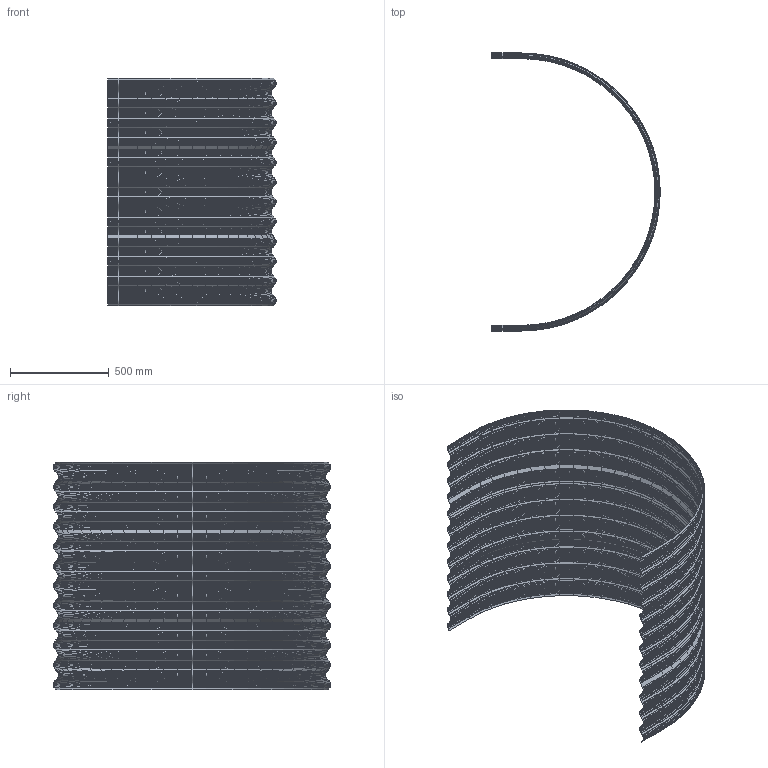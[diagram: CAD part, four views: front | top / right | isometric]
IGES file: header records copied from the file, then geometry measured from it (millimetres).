
Global section: file name: Filename.iges; native system: Open CASCADE 7.0; preprocessor: Open CASCADE IGES processor 7.0; author: gholl; date: 20220902.092532; units: millimetre
Bounding box: 851.99 x 1403.99 x 1150.38 mm (x, y, z)
Surface area: 6511013.7 mm2 (no closed solid volume)
Topology: 0 solids, 0 shells, 14812 faces, 60532 edges, 60532 vertices
Faces by surface type: plane 14790, revolution 22
